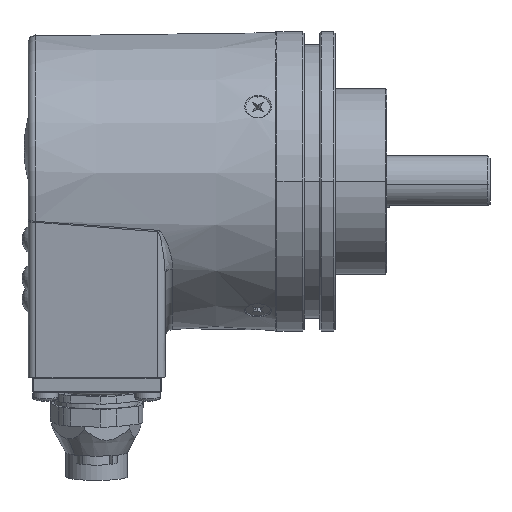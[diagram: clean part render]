
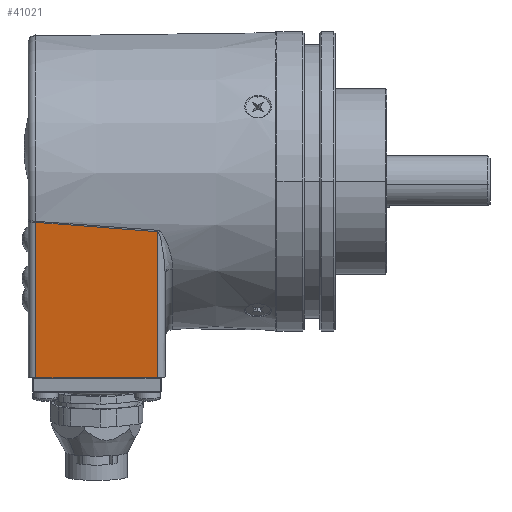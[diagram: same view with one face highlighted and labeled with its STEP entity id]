
A CAD part, top view. The second image highlights one B-rep face of the part: STEP entity #41021.
In plain terms, the highlighted planar face has unit normal (0, -0.139, 0.99).
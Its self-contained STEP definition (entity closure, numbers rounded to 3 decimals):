
#247 = LINE ( 'NONE', #44264, #11758 ) ;
#1689 = VERTEX_POINT ( 'NONE', #57788 ) ;
#3839 = CARTESIAN_POINT ( 'NONE',  ( -35.039, -8.356, 27.209 ) ) ;
#4670 = LINE ( 'NONE', #18762, #55006 ) ;
#5765 = LINE ( 'NONE', #49063, #43153 ) ;
#5811 = ORIENTED_EDGE ( 'NONE', *, *, #30194, .T. ) ;
#6447 = ORIENTED_EDGE ( 'NONE', *, *, #57411, .T. ) ;
#11758 = VECTOR ( 'NONE', #15091, 1000. ) ;
#12417 = CARTESIAN_POINT ( 'NONE',  ( -40.45, -38.091, 23.03 ) ) ;
#15091 = DIRECTION ( 'NONE',  ( -1., 0., 0. ) ) ;
#16996 = EDGE_CURVE ( 'NONE', #22471, #1689, #247, .T. ) ;
#17298 = DIRECTION ( 'NONE',  ( 0., -0.99, -0.139 ) ) ;
#18367 = CARTESIAN_POINT ( 'NONE',  ( -23.289, -9.275, 27.079 ) ) ;
#18762 = CARTESIAN_POINT ( 'NONE',  ( -38.95, -38.091, 23.03 ) ) ;
#19906 = DIRECTION ( 'NONE',  ( 0., 0.99, 0.139 ) ) ;
#20553 = EDGE_CURVE ( 'NONE', #42525, #46938, #60714, .T. ) ;
#20577 = AXIS2_PLACEMENT_3D ( 'NONE', #12417, #46485, #17298 ) ;
#21992 = PLANE ( 'NONE',  #20577 ) ;
#22471 = VERTEX_POINT ( 'NONE', #40799 ) ;
#30194 = EDGE_CURVE ( 'NONE', #22471, #42525, #5765, .T. ) ;
#31646 = ORIENTED_EDGE ( 'NONE', *, *, #16996, .F. ) ;
#33081 = CARTESIAN_POINT ( 'NONE',  ( -31.124, -8.678, 27.163 ) ) ;
#37731 = CARTESIAN_POINT ( 'NONE',  ( -19.37, -9.548, 27.041 ) ) ;
#37937 = CARTESIAN_POINT ( 'NONE',  ( -38.95, -7.988, 27.26 ) ) ;
#40799 = CARTESIAN_POINT ( 'NONE',  ( -15.45, -38.091, 23.03 ) ) ;
#41021 = ADVANCED_FACE ( 'NONE', ( #52789 ), #21992, .T. ) ;
#42525 = VERTEX_POINT ( 'NONE', #56210 ) ;
#43153 = VECTOR ( 'NONE', #19906, 1000. ) ;
#43251 = DIRECTION ( 'NONE',  ( 0., -0.99, -0.139 ) ) ;
#44264 = CARTESIAN_POINT ( 'NONE',  ( -40.45, -38.091, 23.03 ) ) ;
#44272 = CARTESIAN_POINT ( 'NONE',  ( -38.95, -7.988, 27.26 ) ) ;
#46348 = ORIENTED_EDGE ( 'NONE', *, *, #20553, .T. ) ;
#46485 = DIRECTION ( 'NONE',  ( 0., -0.139, 0.99 ) ) ;
#46938 = VERTEX_POINT ( 'NONE', #44272 ) ;
#49063 = CARTESIAN_POINT ( 'NONE',  ( -15.45, -38.091, 23.03 ) ) ;
#52789 = FACE_OUTER_BOUND ( 'NONE', #62357, .T. ) ;
#55006 = VECTOR ( 'NONE', #43251, 1000. ) ;
#56210 = CARTESIAN_POINT ( 'NONE',  ( -15.45, -9.806, 27.005 ) ) ;
#57411 = EDGE_CURVE ( 'NONE', #46938, #1689, #4670, .T. ) ;
#57788 = CARTESIAN_POINT ( 'NONE',  ( -38.95, -38.091, 23.03 ) ) ;
#60714 = B_SPLINE_CURVE_WITH_KNOTS ( 'NONE', 3,
 ( #62272, #37731, #18367, #33081, #3839, #37937 ),
 .UNSPECIFIED., .F., .F.,
 ( 4, 2, 4 ),
 ( 0., 0.012, 0.024 ),
 .UNSPECIFIED. ) ;
#62272 = CARTESIAN_POINT ( 'NONE',  ( -15.45, -9.806, 27.005 ) ) ;
#62357 = EDGE_LOOP ( 'NONE', ( #46348, #6447, #31646, #5811 ) ) ;
